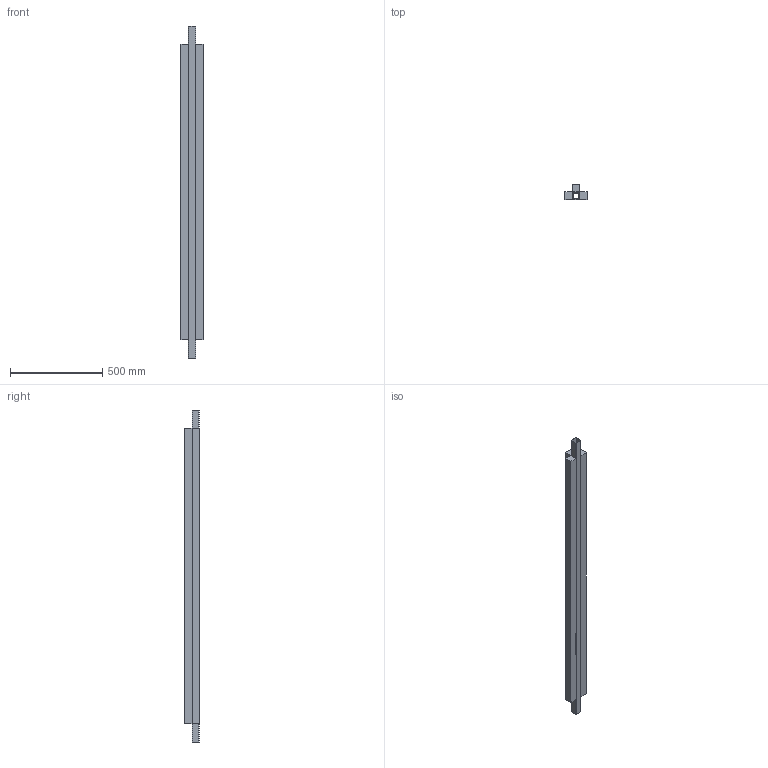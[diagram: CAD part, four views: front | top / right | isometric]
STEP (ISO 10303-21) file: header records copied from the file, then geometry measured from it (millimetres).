
FILE_DESCRIPTION (( 'STEP AP214' ), '1' );
FILE_NAME ('0006634_0_00.step', '2018-07-12T08:50:09', ( '' ), ( '' ), 'SwSTEP 2.0', 'SolidWorks 2018', '' );
FILE_SCHEMA (( 'AUTOMOTIVE_DESIGN' ));
Length unit declared in the file: millimetre
Products named in the file (3): 0006634_0_01_3 lame maxi L=1600; 0006634_0_00; 0006634_0_02_3 lame maxi L=1600
Assembly tree (2 placements, depth 2):
  0006634_0_00
    0006634_0_01_3 lame maxi L=1600
    0006634_0_02_3 lame maxi L=1600
Bounding box: 120 x 80 x 1800 mm (x, y, z)
Volume: 8715254.9 mm3; surface area: 1298840.5 mm2
Topology: 2 solids, 2 shells, 32 faces, 84 edges, 56 vertices
Faces by surface type: plane 24, cylinder 8
Entity records: 1450 total; most frequent: CARTESIAN_POINT 177, DIRECTION 174, ORIENTED_EDGE 168, EDGE_CURVE 84, LINE 68, VECTOR 68, VERTEX_POINT 56, AXIS2_PLACEMENT_3D 53
